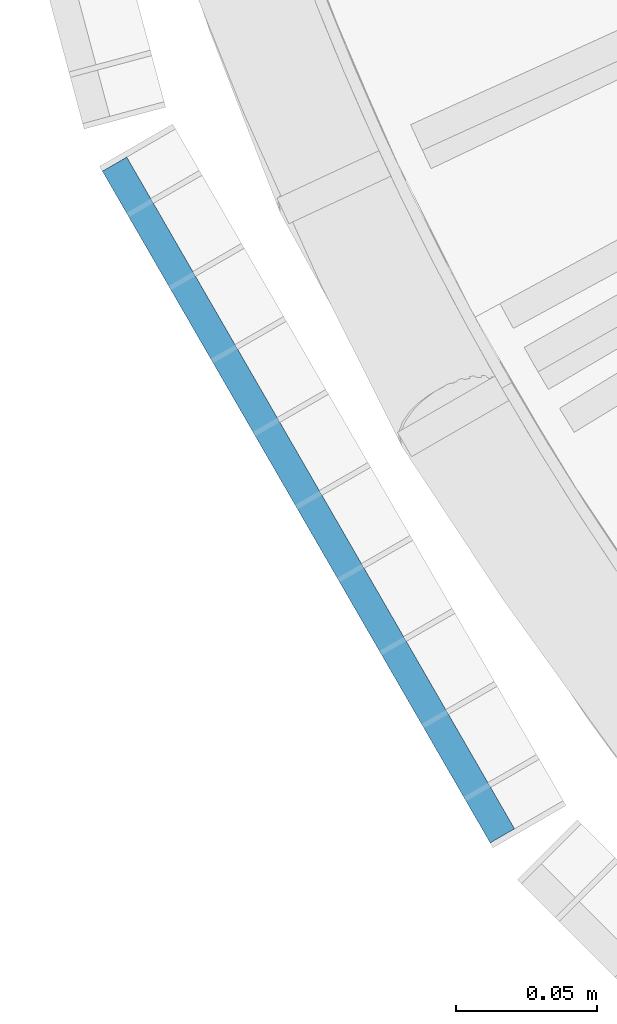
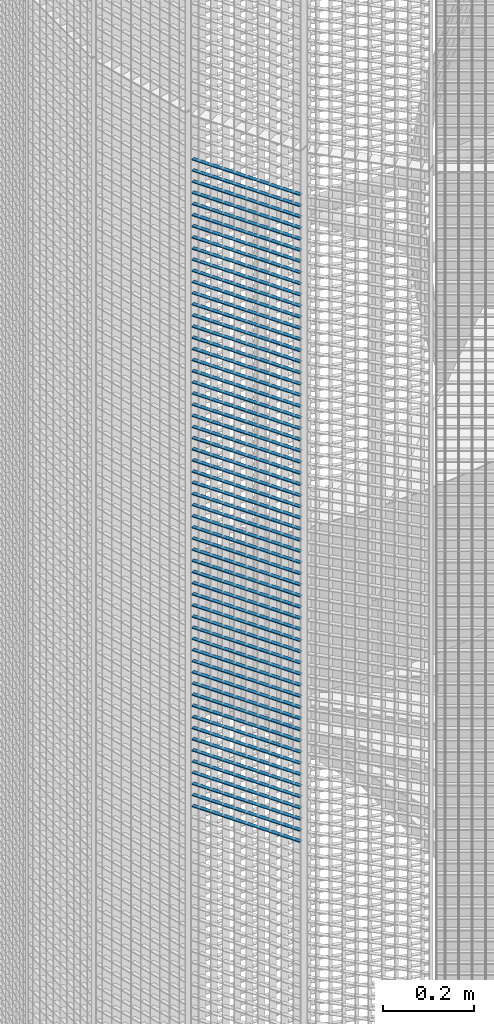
# One storey, part 126 of 1183: 59 beams, 1 element without a shape of its own.
"""IFC2X3 building model written with IfcOpenShell, lengths in millimetres."""

from ifc_helpers import new_model, si_unit, frame, origin_with_axes, origin_2d_with_axis, place, context, subcontext, project, spatial, rectangle, extrude, material, type_object, element, aggregate, save


model = new_model("IFC2X3")

# Units and contexts
model_context = context("Model", 3, precision=1e-05, world=origin_with_axes())
body_context = subcontext(model_context, "Body", "Model", "MODEL_VIEW")
ifc_project = project(units=[si_unit("LENGTHUNIT", "METRE", prefix="MILLI"), si_unit("AREAUNIT", "SQUARE_METRE"), si_unit("VOLUMEUNIT", "CUBIC_METRE"), si_unit("MASSUNIT", "GRAM", prefix="KILO"), si_unit("TIMEUNIT", "SECOND"), si_unit("PLANEANGLEUNIT", "RADIAN"), si_unit("SOLIDANGLEUNIT", "STERADIAN"), si_unit("THERMODYNAMICTEMPERATUREUNIT", "DEGREE_CELSIUS"), si_unit("LUMINOUSINTENSITYUNIT", "LUMEN")], contexts=[model_context])

# Site, building, storey
site_placement = place(None, origin_with_axes())
site = spatial("IfcSite", under=ifc_project, at=site_placement, Name="Undefined", CompositionType="ELEMENT")
building_placement = place(site_placement, origin_with_axes())
building = spatial("IfcBuilding", under=site, at=building_placement, Name="Undefined", CompositionType="ELEMENT")
storey_placement = place(building_placement, origin_with_axes())
storey = spatial("IfcBuildingStorey", under=building, at=storey_placement, Name="Undefined", CompositionType="ELEMENT", Elevation=0.0)

# Assembly, beams
assembly_placement = place(storey_placement, origin_with_axes())
assembly = element("IfcElementAssembly", 1, at=assembly_placement, inside=storey, Name="BORDURE", AssemblyPlace="NOTDEFINED", PredefinedType="NOTDEFINED")
ifc_material = material(Name="STEEL/S235JR")
beam_type = type_object("IfcBeamType", Name="PL2*10", PredefinedType="NOTDEFINED")
beam_1_placement = place(assembly_placement, frame((-1033.29996828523, -437.231955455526, 5880.0), z_axis=(-0.866025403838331, -0.499999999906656, 0.0), x_axis=(0.499999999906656, -0.866025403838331, 0.0)))
beam_1 = element("IfcBeam", 2, at=beam_1_placement, type_object=beam_type, material=ifc_material, Name="ENTRETOISE", context=body_context, shape_type="SweptSolid", body=[
    extrude(rectangle(XDim=2.0, YDim=10.0, at=origin_2d_with_axis()), frame((275.999999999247, 9.09494701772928e-13, 1.53210777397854e-14), z_axis=(-1.0, 0.0, 0.0), x_axis=(0.0, -1.0, 0.0)), (0.0, 0.0, 1.0), 276.0),
])
beam_2_placement = place(assembly_placement, frame((-1033.29996828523, -437.231955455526, 5850.0), z_axis=(-0.866025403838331, -0.499999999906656, 0.0), x_axis=(0.499999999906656, -0.866025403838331, 0.0)))
beam_2 = element("IfcBeam", 3, at=beam_2_placement, type_object=beam_type, material=ifc_material, Name="ENTRETOISE", context=body_context, shape_type="SweptSolid", body=[
    extrude(rectangle(XDim=2.0, YDim=10.0, at=origin_2d_with_axis()), frame((275.999999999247, 9.09494701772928e-13, 1.53210777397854e-14), z_axis=(-1.0, 0.0, 0.0), x_axis=(0.0, -1.0, 0.0)), (0.0, 0.0, 1.0), 276.0),
])
beam_3_placement = place(assembly_placement, frame((-1033.29996828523, -437.231955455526, 5820.0), z_axis=(-0.866025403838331, -0.499999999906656, 0.0), x_axis=(0.499999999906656, -0.866025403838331, 0.0)))
beam_3 = element("IfcBeam", 4, at=beam_3_placement, type_object=beam_type, material=ifc_material, Name="ENTRETOISE", context=body_context, shape_type="SweptSolid", body=[
    extrude(rectangle(XDim=2.0, YDim=10.0, at=origin_2d_with_axis()), frame((275.999999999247, 9.09494701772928e-13, 1.53210777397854e-14), z_axis=(-1.0, 0.0, 0.0), x_axis=(0.0, -1.0, 0.0)), (0.0, 0.0, 1.0), 276.0),
])
beam_4_placement = place(assembly_placement, frame((-1033.29996828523, -437.231955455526, 5790.0), z_axis=(-0.866025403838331, -0.499999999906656, 0.0), x_axis=(0.499999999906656, -0.866025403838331, 0.0)))
beam_4 = element("IfcBeam", 5, at=beam_4_placement, type_object=beam_type, material=ifc_material, Name="ENTRETOISE", context=body_context, shape_type="SweptSolid", body=[
    extrude(rectangle(XDim=2.0, YDim=10.0, at=origin_2d_with_axis()), frame((275.999999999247, 9.09494701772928e-13, 1.53210777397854e-14), z_axis=(-1.0, 0.0, 0.0), x_axis=(0.0, -1.0, 0.0)), (0.0, 0.0, 1.0), 276.0),
])
beam_5_placement = place(assembly_placement, frame((-1033.29996828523, -437.231955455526, 5760.0), z_axis=(-0.866025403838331, -0.499999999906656, 0.0), x_axis=(0.499999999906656, -0.866025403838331, 0.0)))
beam_5 = element("IfcBeam", 6, at=beam_5_placement, type_object=beam_type, material=ifc_material, Name="ENTRETOISE", context=body_context, shape_type="SweptSolid", body=[
    extrude(rectangle(XDim=2.0, YDim=10.0, at=origin_2d_with_axis()), frame((275.999999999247, 9.09494701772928e-13, 1.53210777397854e-14), z_axis=(-1.0, 0.0, 0.0), x_axis=(0.0, -1.0, 0.0)), (0.0, 0.0, 1.0), 276.0),
])
beam_6_placement = place(assembly_placement, frame((-1033.29996828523, -437.231955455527, 5730.0), z_axis=(-0.866025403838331, -0.499999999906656, 0.0), x_axis=(0.499999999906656, -0.866025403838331, 0.0)))
beam_6 = element("IfcBeam", 7, at=beam_6_placement, type_object=beam_type, material=ifc_material, Name="ENTRETOISE", context=body_context, shape_type="SweptSolid", body=[
    extrude(rectangle(XDim=2.0, YDim=10.0, at=origin_2d_with_axis()), frame((275.999999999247, 9.09494701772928e-13, 1.53210777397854e-14), z_axis=(-1.0, 0.0, 0.0), x_axis=(0.0, -1.0, 0.0)), (0.0, 0.0, 1.0), 276.0),
])
beam_7_placement = place(assembly_placement, frame((-1033.29996828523, -437.231955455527, 5700.0), z_axis=(-0.866025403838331, -0.499999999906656, 0.0), x_axis=(0.499999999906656, -0.866025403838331, 0.0)))
beam_7 = element("IfcBeam", 8, at=beam_7_placement, type_object=beam_type, material=ifc_material, Name="ENTRETOISE", context=body_context, shape_type="SweptSolid", body=[
    extrude(rectangle(XDim=2.0, YDim=10.0, at=origin_2d_with_axis()), frame((275.999999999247, 9.09494701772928e-13, 1.53210777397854e-14), z_axis=(-1.0, 0.0, 0.0), x_axis=(0.0, -1.0, 0.0)), (0.0, 0.0, 1.0), 276.0),
])
beam_8_placement = place(assembly_placement, frame((-1033.29996828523, -437.231955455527, 5670.0), z_axis=(-0.866025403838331, -0.499999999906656, 0.0), x_axis=(0.499999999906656, -0.866025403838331, 0.0)))
beam_8 = element("IfcBeam", 9, at=beam_8_placement, type_object=beam_type, material=ifc_material, Name="ENTRETOISE", context=body_context, shape_type="SweptSolid", body=[
    extrude(rectangle(XDim=2.0, YDim=10.0, at=origin_2d_with_axis()), frame((275.999999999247, 9.09494701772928e-13, 1.53210777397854e-14), z_axis=(-1.0, 0.0, 0.0), x_axis=(0.0, -1.0, 0.0)), (0.0, 0.0, 1.0), 276.0),
])
beam_9_placement = place(assembly_placement, frame((-1033.29996828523, -437.231955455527, 5640.0), z_axis=(-0.866025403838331, -0.499999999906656, 0.0), x_axis=(0.499999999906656, -0.866025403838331, 0.0)))
beam_9 = element("IfcBeam", 10, at=beam_9_placement, type_object=beam_type, material=ifc_material, Name="ENTRETOISE", context=body_context, shape_type="SweptSolid", body=[
    extrude(rectangle(XDim=2.0, YDim=10.0, at=origin_2d_with_axis()), frame((275.999999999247, 9.09494701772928e-13, 1.53210777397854e-14), z_axis=(-1.0, 0.0, 0.0), x_axis=(0.0, -1.0, 0.0)), (0.0, 0.0, 1.0), 276.0),
])
beam_10_placement = place(assembly_placement, frame((-1033.29996828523, -437.231955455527, 5610.0), z_axis=(-0.866025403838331, -0.499999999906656, 0.0), x_axis=(0.499999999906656, -0.866025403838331, 0.0)))
beam_10 = element("IfcBeam", 11, at=beam_10_placement, type_object=beam_type, material=ifc_material, Name="ENTRETOISE", context=body_context, shape_type="SweptSolid", body=[
    extrude(rectangle(XDim=2.0, YDim=10.0, at=origin_2d_with_axis()), frame((275.999999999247, 9.09494701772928e-13, 1.53210777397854e-14), z_axis=(-1.0, 0.0, 0.0), x_axis=(0.0, -1.0, 0.0)), (0.0, 0.0, 1.0), 276.0),
])
beam_11_placement = place(assembly_placement, frame((-1033.29996828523, -437.231955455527, 5580.0), z_axis=(-0.866025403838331, -0.499999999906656, 0.0), x_axis=(0.499999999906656, -0.866025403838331, 0.0)))
beam_11 = element("IfcBeam", 12, at=beam_11_placement, type_object=beam_type, material=ifc_material, Name="ENTRETOISE", context=body_context, shape_type="SweptSolid", body=[
    extrude(rectangle(XDim=2.0, YDim=10.0, at=origin_2d_with_axis()), frame((275.999999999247, 9.09494701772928e-13, 1.53210777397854e-14), z_axis=(-1.0, 0.0, 0.0), x_axis=(0.0, -1.0, 0.0)), (0.0, 0.0, 1.0), 276.0),
])
beam_12_placement = place(assembly_placement, frame((-1033.29996828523, -437.231955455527, 5550.0), z_axis=(-0.866025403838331, -0.499999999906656, 0.0), x_axis=(0.499999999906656, -0.866025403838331, 0.0)))
beam_12 = element("IfcBeam", 13, at=beam_12_placement, type_object=beam_type, material=ifc_material, Name="ENTRETOISE", context=body_context, shape_type="SweptSolid", body=[
    extrude(rectangle(XDim=2.0, YDim=10.0, at=origin_2d_with_axis()), frame((275.999999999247, 9.09494701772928e-13, 1.53210777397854e-14), z_axis=(-1.0, 0.0, 0.0), x_axis=(0.0, -1.0, 0.0)), (0.0, 0.0, 1.0), 276.0),
])
beam_13_placement = place(assembly_placement, frame((-1033.29996828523, -437.231955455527, 5520.0), z_axis=(-0.866025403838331, -0.499999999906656, 0.0), x_axis=(0.499999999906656, -0.866025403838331, 0.0)))
beam_13 = element("IfcBeam", 14, at=beam_13_placement, type_object=beam_type, material=ifc_material, Name="ENTRETOISE", context=body_context, shape_type="SweptSolid", body=[
    extrude(rectangle(XDim=2.0, YDim=10.0, at=origin_2d_with_axis()), frame((275.999999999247, 9.09494701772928e-13, 1.53210777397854e-14), z_axis=(-1.0, 0.0, 0.0), x_axis=(0.0, -1.0, 0.0)), (0.0, 0.0, 1.0), 276.0),
])
beam_14_placement = place(assembly_placement, frame((-1033.29996828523, -437.231955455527, 5490.0), z_axis=(-0.866025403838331, -0.499999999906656, 0.0), x_axis=(0.499999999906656, -0.866025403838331, 0.0)))
beam_14 = element("IfcBeam", 15, at=beam_14_placement, type_object=beam_type, material=ifc_material, Name="ENTRETOISE", context=body_context, shape_type="SweptSolid", body=[
    extrude(rectangle(XDim=2.0, YDim=10.0, at=origin_2d_with_axis()), frame((275.999999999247, 9.09494701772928e-13, 1.53210777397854e-14), z_axis=(-1.0, 0.0, 0.0), x_axis=(0.0, -1.0, 0.0)), (0.0, 0.0, 1.0), 276.0),
])
beam_15_placement = place(assembly_placement, frame((-1033.29996828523, -437.231955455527, 5460.0), z_axis=(-0.866025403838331, -0.499999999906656, 0.0), x_axis=(0.499999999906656, -0.866025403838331, 0.0)))
beam_15 = element("IfcBeam", 16, at=beam_15_placement, type_object=beam_type, material=ifc_material, Name="ENTRETOISE", context=body_context, shape_type="SweptSolid", body=[
    extrude(rectangle(XDim=2.0, YDim=10.0, at=origin_2d_with_axis()), frame((275.999999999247, 9.09494701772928e-13, 1.53210777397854e-14), z_axis=(-1.0, 0.0, 0.0), x_axis=(0.0, -1.0, 0.0)), (0.0, 0.0, 1.0), 276.0),
])
beam_16_placement = place(assembly_placement, frame((-1033.29996828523, -437.231955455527, 5430.0), z_axis=(-0.866025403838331, -0.499999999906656, 0.0), x_axis=(0.499999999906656, -0.866025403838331, 0.0)))
beam_16 = element("IfcBeam", 17, at=beam_16_placement, type_object=beam_type, material=ifc_material, Name="ENTRETOISE", context=body_context, shape_type="SweptSolid", body=[
    extrude(rectangle(XDim=2.0, YDim=10.0, at=origin_2d_with_axis()), frame((275.999999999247, 9.09494701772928e-13, 1.53210777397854e-14), z_axis=(-1.0, 0.0, 0.0), x_axis=(0.0, -1.0, 0.0)), (0.0, 0.0, 1.0), 276.0),
])
beam_17_placement = place(assembly_placement, frame((-1033.29996828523, -437.231955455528, 5400.0), z_axis=(-0.866025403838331, -0.499999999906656, 0.0), x_axis=(0.499999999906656, -0.866025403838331, 0.0)))
beam_17 = element("IfcBeam", 18, at=beam_17_placement, type_object=beam_type, material=ifc_material, Name="ENTRETOISE", context=body_context, shape_type="SweptSolid", body=[
    extrude(rectangle(XDim=2.0, YDim=10.0, at=origin_2d_with_axis()), frame((275.999999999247, 9.09494701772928e-13, 1.53210777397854e-14), z_axis=(-1.0, 0.0, 0.0), x_axis=(0.0, -1.0, 0.0)), (0.0, 0.0, 1.0), 276.0),
])
beam_18_placement = place(assembly_placement, frame((-1033.29996828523, -437.231955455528, 5370.0), z_axis=(-0.866025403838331, -0.499999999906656, 0.0), x_axis=(0.499999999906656, -0.866025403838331, 0.0)))
beam_18 = element("IfcBeam", 19, at=beam_18_placement, type_object=beam_type, material=ifc_material, Name="ENTRETOISE", context=body_context, shape_type="SweptSolid", body=[
    extrude(rectangle(XDim=2.0, YDim=10.0, at=origin_2d_with_axis()), frame((275.999999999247, 9.09494701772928e-13, 1.53210777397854e-14), z_axis=(-1.0, 0.0, 0.0), x_axis=(0.0, -1.0, 0.0)), (0.0, 0.0, 1.0), 276.0),
])
beam_19_placement = place(assembly_placement, frame((-1033.29996828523, -437.231955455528, 5340.0), z_axis=(-0.866025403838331, -0.499999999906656, 0.0), x_axis=(0.499999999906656, -0.866025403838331, 0.0)))
beam_19 = element("IfcBeam", 20, at=beam_19_placement, type_object=beam_type, material=ifc_material, Name="ENTRETOISE", context=body_context, shape_type="SweptSolid", body=[
    extrude(rectangle(XDim=2.0, YDim=10.0, at=origin_2d_with_axis()), frame((275.999999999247, 9.09494701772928e-13, 1.53210777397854e-14), z_axis=(-1.0, 0.0, 0.0), x_axis=(0.0, -1.0, 0.0)), (0.0, 0.0, 1.0), 276.0),
])
beam_20_placement = place(assembly_placement, frame((-1033.29996828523, -437.231955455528, 5310.0), z_axis=(-0.866025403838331, -0.499999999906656, 0.0), x_axis=(0.499999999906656, -0.866025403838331, 0.0)))
beam_20 = element("IfcBeam", 21, at=beam_20_placement, type_object=beam_type, material=ifc_material, Name="ENTRETOISE", context=body_context, shape_type="SweptSolid", body=[
    extrude(rectangle(XDim=2.0, YDim=10.0, at=origin_2d_with_axis()), frame((275.999999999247, 9.09494701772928e-13, 1.53210777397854e-14), z_axis=(-1.0, 0.0, 0.0), x_axis=(0.0, -1.0, 0.0)), (0.0, 0.0, 1.0), 276.0),
])
beam_21_placement = place(assembly_placement, frame((-1033.29996828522, -437.231955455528, 5280.0), z_axis=(-0.866025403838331, -0.499999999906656, 0.0), x_axis=(0.499999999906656, -0.866025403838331, 0.0)))
beam_21 = element("IfcBeam", 22, at=beam_21_placement, type_object=beam_type, material=ifc_material, Name="ENTRETOISE", context=body_context, shape_type="SweptSolid", body=[
    extrude(rectangle(XDim=2.0, YDim=10.0, at=origin_2d_with_axis()), frame((275.999999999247, 9.09494701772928e-13, 1.53210777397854e-14), z_axis=(-1.0, 0.0, 0.0), x_axis=(0.0, -1.0, 0.0)), (0.0, 0.0, 1.0), 276.0),
])
beam_22_placement = place(assembly_placement, frame((-1033.29996828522, -437.231955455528, 5250.0), z_axis=(-0.866025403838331, -0.499999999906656, 0.0), x_axis=(0.499999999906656, -0.866025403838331, 0.0)))
beam_22 = element("IfcBeam", 23, at=beam_22_placement, type_object=beam_type, material=ifc_material, Name="ENTRETOISE", context=body_context, shape_type="SweptSolid", body=[
    extrude(rectangle(XDim=2.0, YDim=10.0, at=origin_2d_with_axis()), frame((275.999999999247, 9.09494701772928e-13, 1.53210777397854e-14), z_axis=(-1.0, 0.0, 0.0), x_axis=(0.0, -1.0, 0.0)), (0.0, 0.0, 1.0), 276.0),
])
beam_23_placement = place(assembly_placement, frame((-1033.29996828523, -437.231955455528, 5220.0), z_axis=(-0.866025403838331, -0.499999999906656, 0.0), x_axis=(0.499999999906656, -0.866025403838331, 0.0)))
beam_23 = element("IfcBeam", 24, at=beam_23_placement, type_object=beam_type, material=ifc_material, Name="ENTRETOISE", context=body_context, shape_type="SweptSolid", body=[
    extrude(rectangle(XDim=2.0, YDim=10.0, at=origin_2d_with_axis()), frame((275.999999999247, 9.09494701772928e-13, 1.53210777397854e-14), z_axis=(-1.0, 0.0, 0.0), x_axis=(0.0, -1.0, 0.0)), (0.0, 0.0, 1.0), 276.0),
])
beam_24_placement = place(assembly_placement, frame((-1033.29996828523, -437.231955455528, 5190.0), z_axis=(-0.866025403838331, -0.499999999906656, 0.0), x_axis=(0.499999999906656, -0.866025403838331, 0.0)))
beam_24 = element("IfcBeam", 25, at=beam_24_placement, type_object=beam_type, material=ifc_material, Name="ENTRETOISE", context=body_context, shape_type="SweptSolid", body=[
    extrude(rectangle(XDim=2.0, YDim=10.0, at=origin_2d_with_axis()), frame((275.999999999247, 9.09494701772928e-13, 1.53210777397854e-14), z_axis=(-1.0, 0.0, 0.0), x_axis=(0.0, -1.0, 0.0)), (0.0, 0.0, 1.0), 276.0),
])
beam_25_placement = place(assembly_placement, frame((-1033.29996828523, -437.231955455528, 5160.0), z_axis=(-0.866025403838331, -0.499999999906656, 0.0), x_axis=(0.499999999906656, -0.866025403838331, 0.0)))
beam_25 = element("IfcBeam", 26, at=beam_25_placement, type_object=beam_type, material=ifc_material, Name="ENTRETOISE", context=body_context, shape_type="SweptSolid", body=[
    extrude(rectangle(XDim=2.0, YDim=10.0, at=origin_2d_with_axis()), frame((275.999999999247, 9.09494701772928e-13, 1.53210777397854e-14), z_axis=(-1.0, 0.0, 0.0), x_axis=(0.0, -1.0, 0.0)), (0.0, 0.0, 1.0), 276.0),
])
beam_26_placement = place(assembly_placement, frame((-1033.29996828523, -437.231955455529, 5130.0), z_axis=(-0.866025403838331, -0.499999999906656, 0.0), x_axis=(0.499999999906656, -0.866025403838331, 0.0)))
beam_26 = element("IfcBeam", 27, at=beam_26_placement, type_object=beam_type, material=ifc_material, Name="ENTRETOISE", context=body_context, shape_type="SweptSolid", body=[
    extrude(rectangle(XDim=2.0, YDim=10.0, at=origin_2d_with_axis()), frame((275.999999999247, 9.09494701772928e-13, 1.53210777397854e-14), z_axis=(-1.0, 0.0, 0.0), x_axis=(0.0, -1.0, 0.0)), (0.0, 0.0, 1.0), 276.0),
])
beam_27_placement = place(assembly_placement, frame((-1033.29996828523, -437.231955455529, 5100.0), z_axis=(-0.866025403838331, -0.499999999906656, 0.0), x_axis=(0.499999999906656, -0.866025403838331, 0.0)))
beam_27 = element("IfcBeam", 28, at=beam_27_placement, type_object=beam_type, material=ifc_material, Name="ENTRETOISE", context=body_context, shape_type="SweptSolid", body=[
    extrude(rectangle(XDim=2.0, YDim=10.0, at=origin_2d_with_axis()), frame((275.999999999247, 9.09494701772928e-13, 1.53210777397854e-14), z_axis=(-1.0, 0.0, 0.0), x_axis=(0.0, -1.0, 0.0)), (0.0, 0.0, 1.0), 276.0),
])
beam_28_placement = place(assembly_placement, frame((-1033.29996828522, -437.231955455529, 5070.0), z_axis=(-0.866025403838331, -0.499999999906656, 0.0), x_axis=(0.499999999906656, -0.866025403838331, 0.0)))
beam_28 = element("IfcBeam", 29, at=beam_28_placement, type_object=beam_type, material=ifc_material, Name="ENTRETOISE", context=body_context, shape_type="SweptSolid", body=[
    extrude(rectangle(XDim=2.0, YDim=10.0, at=origin_2d_with_axis()), frame((275.999999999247, 9.09494701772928e-13, 1.53210777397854e-14), z_axis=(-1.0, 0.0, 0.0), x_axis=(0.0, -1.0, 0.0)), (0.0, 0.0, 1.0), 276.0),
])
beam_29_placement = place(assembly_placement, frame((-1033.29996828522, -437.231955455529, 5040.0), z_axis=(-0.866025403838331, -0.499999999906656, 0.0), x_axis=(0.499999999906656, -0.866025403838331, 0.0)))
beam_29 = element("IfcBeam", 30, at=beam_29_placement, type_object=beam_type, material=ifc_material, Name="ENTRETOISE", context=body_context, shape_type="SweptSolid", body=[
    extrude(rectangle(XDim=2.0, YDim=10.0, at=origin_2d_with_axis()), frame((275.999999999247, 9.09494701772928e-13, 1.53210777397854e-14), z_axis=(-1.0, 0.0, 0.0), x_axis=(0.0, -1.0, 0.0)), (0.0, 0.0, 1.0), 276.0),
])
beam_30_placement = place(assembly_placement, frame((-1033.29996828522, -437.231955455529, 5010.0), z_axis=(-0.866025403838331, -0.499999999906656, 0.0), x_axis=(0.499999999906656, -0.866025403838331, 0.0)))
beam_30 = element("IfcBeam", 31, at=beam_30_placement, type_object=beam_type, material=ifc_material, Name="ENTRETOISE", context=body_context, shape_type="SweptSolid", body=[
    extrude(rectangle(XDim=2.0, YDim=10.0, at=origin_2d_with_axis()), frame((275.999999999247, 9.09494701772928e-13, 1.53210777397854e-14), z_axis=(-1.0, 0.0, 0.0), x_axis=(0.0, -1.0, 0.0)), (0.0, 0.0, 1.0), 276.0),
])
beam_31_placement = place(assembly_placement, frame((-1033.29996828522, -437.231955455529, 4980.0), z_axis=(-0.866025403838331, -0.499999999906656, 0.0), x_axis=(0.499999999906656, -0.866025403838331, 0.0)))
beam_31 = element("IfcBeam", 32, at=beam_31_placement, type_object=beam_type, material=ifc_material, Name="ENTRETOISE", context=body_context, shape_type="SweptSolid", body=[
    extrude(rectangle(XDim=2.0, YDim=10.0, at=origin_2d_with_axis()), frame((275.999999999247, 9.09494701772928e-13, 1.53210777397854e-14), z_axis=(-1.0, 0.0, 0.0), x_axis=(0.0, -1.0, 0.0)), (0.0, 0.0, 1.0), 276.0),
])
beam_32_placement = place(assembly_placement, frame((-1033.29996828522, -437.231955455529, 4950.0), z_axis=(-0.866025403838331, -0.499999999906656, 0.0), x_axis=(0.499999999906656, -0.866025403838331, 0.0)))
beam_32 = element("IfcBeam", 33, at=beam_32_placement, type_object=beam_type, material=ifc_material, Name="ENTRETOISE", context=body_context, shape_type="SweptSolid", body=[
    extrude(rectangle(XDim=2.0, YDim=10.0, at=origin_2d_with_axis()), frame((275.999999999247, 9.09494701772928e-13, 1.53210777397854e-14), z_axis=(-1.0, 0.0, 0.0), x_axis=(0.0, -1.0, 0.0)), (0.0, 0.0, 1.0), 276.0),
])
beam_33_placement = place(assembly_placement, frame((-1033.29996828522, -437.231955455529, 4920.0), z_axis=(-0.866025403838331, -0.499999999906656, 0.0), x_axis=(0.499999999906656, -0.866025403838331, 0.0)))
beam_33 = element("IfcBeam", 34, at=beam_33_placement, type_object=beam_type, material=ifc_material, Name="ENTRETOISE", context=body_context, shape_type="SweptSolid", body=[
    extrude(rectangle(XDim=2.0, YDim=10.0, at=origin_2d_with_axis()), frame((275.999999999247, 9.09494701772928e-13, 1.53210777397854e-14), z_axis=(-1.0, 0.0, 0.0), x_axis=(0.0, -1.0, 0.0)), (0.0, 0.0, 1.0), 276.0),
])
beam_34_placement = place(assembly_placement, frame((-1033.29996828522, -437.231955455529, 4890.0), z_axis=(-0.866025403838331, -0.499999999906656, 0.0), x_axis=(0.499999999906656, -0.866025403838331, 0.0)))
beam_34 = element("IfcBeam", 35, at=beam_34_placement, type_object=beam_type, material=ifc_material, Name="ENTRETOISE", context=body_context, shape_type="SweptSolid", body=[
    extrude(rectangle(XDim=2.0, YDim=10.0, at=origin_2d_with_axis()), frame((275.999999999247, 9.09494701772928e-13, 1.53210777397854e-14), z_axis=(-1.0, 0.0, 0.0), x_axis=(0.0, -1.0, 0.0)), (0.0, 0.0, 1.0), 276.0),
])
beam_35_placement = place(assembly_placement, frame((-1033.29996828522, -437.23195545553, 4860.0), z_axis=(-0.866025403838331, -0.499999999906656, 0.0), x_axis=(0.499999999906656, -0.866025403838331, 0.0)))
beam_35 = element("IfcBeam", 36, at=beam_35_placement, type_object=beam_type, material=ifc_material, Name="ENTRETOISE", context=body_context, shape_type="SweptSolid", body=[
    extrude(rectangle(XDim=2.0, YDim=10.0, at=origin_2d_with_axis()), frame((275.999999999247, 9.09494701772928e-13, 1.53210777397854e-14), z_axis=(-1.0, 0.0, 0.0), x_axis=(0.0, -1.0, 0.0)), (0.0, 0.0, 1.0), 276.0),
])
beam_36_placement = place(assembly_placement, frame((-1033.29996828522, -437.23195545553, 4830.0), z_axis=(-0.866025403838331, -0.499999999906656, 0.0), x_axis=(0.499999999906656, -0.866025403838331, 0.0)))
beam_36 = element("IfcBeam", 37, at=beam_36_placement, type_object=beam_type, material=ifc_material, Name="ENTRETOISE", context=body_context, shape_type="SweptSolid", body=[
    extrude(rectangle(XDim=2.0, YDim=10.0, at=origin_2d_with_axis()), frame((275.999999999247, 9.09494701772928e-13, 1.53210777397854e-14), z_axis=(-1.0, 0.0, 0.0), x_axis=(0.0, -1.0, 0.0)), (0.0, 0.0, 1.0), 276.0),
])
beam_37_placement = place(assembly_placement, frame((-1033.29996828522, -437.23195545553, 4800.0), z_axis=(-0.866025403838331, -0.499999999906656, 0.0), x_axis=(0.499999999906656, -0.866025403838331, 0.0)))
beam_37 = element("IfcBeam", 38, at=beam_37_placement, type_object=beam_type, material=ifc_material, Name="ENTRETOISE", context=body_context, shape_type="SweptSolid", body=[
    extrude(rectangle(XDim=2.0, YDim=10.0, at=origin_2d_with_axis()), frame((275.999999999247, 9.09494701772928e-13, 1.53210777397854e-14), z_axis=(-1.0, 0.0, 0.0), x_axis=(0.0, -1.0, 0.0)), (0.0, 0.0, 1.0), 276.0),
])
beam_38_placement = place(assembly_placement, frame((-1033.29996828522, -437.23195545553, 4770.0), z_axis=(-0.866025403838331, -0.499999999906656, 0.0), x_axis=(0.499999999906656, -0.866025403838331, 0.0)))
beam_38 = element("IfcBeam", 39, at=beam_38_placement, type_object=beam_type, material=ifc_material, Name="ENTRETOISE", context=body_context, shape_type="SweptSolid", body=[
    extrude(rectangle(XDim=2.0, YDim=10.0, at=origin_2d_with_axis()), frame((275.999999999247, 9.09494701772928e-13, 1.53210777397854e-14), z_axis=(-1.0, 0.0, 0.0), x_axis=(0.0, -1.0, 0.0)), (0.0, 0.0, 1.0), 276.0),
])
beam_39_placement = place(assembly_placement, frame((-1033.29996828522, -437.23195545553, 4740.0), z_axis=(-0.866025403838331, -0.499999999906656, 0.0), x_axis=(0.499999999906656, -0.866025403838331, 0.0)))
beam_39 = element("IfcBeam", 40, at=beam_39_placement, type_object=beam_type, material=ifc_material, Name="ENTRETOISE", context=body_context, shape_type="SweptSolid", body=[
    extrude(rectangle(XDim=2.0, YDim=10.0, at=origin_2d_with_axis()), frame((275.999999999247, 9.09494701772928e-13, 1.53210777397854e-14), z_axis=(-1.0, 0.0, 0.0), x_axis=(0.0, -1.0, 0.0)), (0.0, 0.0, 1.0), 276.0),
])
beam_40_placement = place(assembly_placement, frame((-1033.29996828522, -437.23195545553, 4710.0), z_axis=(-0.866025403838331, -0.499999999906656, 0.0), x_axis=(0.499999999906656, -0.866025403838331, 0.0)))
beam_40 = element("IfcBeam", 41, at=beam_40_placement, type_object=beam_type, material=ifc_material, Name="ENTRETOISE", context=body_context, shape_type="SweptSolid", body=[
    extrude(rectangle(XDim=2.0, YDim=10.0, at=origin_2d_with_axis()), frame((275.999999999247, 9.09494701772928e-13, 1.53210777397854e-14), z_axis=(-1.0, 0.0, 0.0), x_axis=(0.0, -1.0, 0.0)), (0.0, 0.0, 1.0), 276.0),
])
beam_41_placement = place(assembly_placement, frame((-1033.29996828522, -437.23195545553, 4680.0), z_axis=(-0.866025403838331, -0.499999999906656, 0.0), x_axis=(0.499999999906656, -0.866025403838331, 0.0)))
beam_41 = element("IfcBeam", 42, at=beam_41_placement, type_object=beam_type, material=ifc_material, Name="ENTRETOISE", context=body_context, shape_type="SweptSolid", body=[
    extrude(rectangle(XDim=2.0, YDim=10.0, at=origin_2d_with_axis()), frame((275.999999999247, 9.09494701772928e-13, 1.53210777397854e-14), z_axis=(-1.0, 0.0, 0.0), x_axis=(0.0, -1.0, 0.0)), (0.0, 0.0, 1.0), 276.0),
])
beam_42_placement = place(assembly_placement, frame((-1033.29996828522, -437.23195545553, 4650.0), z_axis=(-0.866025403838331, -0.499999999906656, 0.0), x_axis=(0.499999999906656, -0.866025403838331, 0.0)))
beam_42 = element("IfcBeam", 43, at=beam_42_placement, type_object=beam_type, material=ifc_material, Name="ENTRETOISE", context=body_context, shape_type="SweptSolid", body=[
    extrude(rectangle(XDim=2.0, YDim=10.0, at=origin_2d_with_axis()), frame((275.999999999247, 9.09494701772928e-13, 1.53210777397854e-14), z_axis=(-1.0, 0.0, 0.0), x_axis=(0.0, -1.0, 0.0)), (0.0, 0.0, 1.0), 276.0),
])
beam_43_placement = place(assembly_placement, frame((-1033.29996828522, -437.23195545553, 4620.0), z_axis=(-0.866025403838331, -0.499999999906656, 0.0), x_axis=(0.499999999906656, -0.866025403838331, 0.0)))
beam_43 = element("IfcBeam", 44, at=beam_43_placement, type_object=beam_type, material=ifc_material, Name="ENTRETOISE", context=body_context, shape_type="SweptSolid", body=[
    extrude(rectangle(XDim=2.0, YDim=10.0, at=origin_2d_with_axis()), frame((275.999999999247, 9.09494701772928e-13, 1.53210777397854e-14), z_axis=(-1.0, 0.0, 0.0), x_axis=(0.0, -1.0, 0.0)), (0.0, 0.0, 1.0), 276.0),
])
beam_44_placement = place(assembly_placement, frame((-1033.29996828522, -437.23195545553, 4590.0), z_axis=(-0.866025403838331, -0.499999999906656, 0.0), x_axis=(0.499999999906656, -0.866025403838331, 0.0)))
beam_44 = element("IfcBeam", 45, at=beam_44_placement, type_object=beam_type, material=ifc_material, Name="ENTRETOISE", context=body_context, shape_type="SweptSolid", body=[
    extrude(rectangle(XDim=2.0, YDim=10.0, at=origin_2d_with_axis()), frame((275.999999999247, 9.09494701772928e-13, 1.53210777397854e-14), z_axis=(-1.0, 0.0, 0.0), x_axis=(0.0, -1.0, 0.0)), (0.0, 0.0, 1.0), 276.0),
])
beam_45_placement = place(assembly_placement, frame((-1033.29996828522, -437.23195545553, 4560.0), z_axis=(-0.866025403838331, -0.499999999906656, 0.0), x_axis=(0.499999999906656, -0.866025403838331, 0.0)))
beam_45 = element("IfcBeam", 46, at=beam_45_placement, type_object=beam_type, material=ifc_material, Name="ENTRETOISE", context=body_context, shape_type="SweptSolid", body=[
    extrude(rectangle(XDim=2.0, YDim=10.0, at=origin_2d_with_axis()), frame((275.999999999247, 9.09494701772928e-13, 1.53210777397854e-14), z_axis=(-1.0, 0.0, 0.0), x_axis=(0.0, -1.0, 0.0)), (0.0, 0.0, 1.0), 276.0),
])
beam_46_placement = place(assembly_placement, frame((-1033.29996828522, -437.23195545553, 4530.0), z_axis=(-0.866025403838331, -0.499999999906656, 0.0), x_axis=(0.499999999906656, -0.866025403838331, 0.0)))
beam_46 = element("IfcBeam", 47, at=beam_46_placement, type_object=beam_type, material=ifc_material, Name="ENTRETOISE", context=body_context, shape_type="SweptSolid", body=[
    extrude(rectangle(XDim=2.0, YDim=10.0, at=origin_2d_with_axis()), frame((275.999999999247, 9.09494701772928e-13, 1.53210777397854e-14), z_axis=(-1.0, 0.0, 0.0), x_axis=(0.0, -1.0, 0.0)), (0.0, 0.0, 1.0), 276.0),
])
beam_47_placement = place(assembly_placement, frame((-1033.29996828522, -437.231955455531, 4500.0), z_axis=(-0.866025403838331, -0.499999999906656, 0.0), x_axis=(0.499999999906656, -0.866025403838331, 0.0)))
beam_47 = element("IfcBeam", 48, at=beam_47_placement, type_object=beam_type, material=ifc_material, Name="ENTRETOISE", context=body_context, shape_type="SweptSolid", body=[
    extrude(rectangle(XDim=2.0, YDim=10.0, at=origin_2d_with_axis()), frame((275.999999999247, 9.09494701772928e-13, 1.53210777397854e-14), z_axis=(-1.0, 0.0, 0.0), x_axis=(0.0, -1.0, 0.0)), (0.0, 0.0, 1.0), 276.0),
])
beam_48_placement = place(assembly_placement, frame((-1033.29996828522, -437.231955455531, 4470.0), z_axis=(-0.866025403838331, -0.499999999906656, 0.0), x_axis=(0.499999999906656, -0.866025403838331, 0.0)))
beam_48 = element("IfcBeam", 49, at=beam_48_placement, type_object=beam_type, material=ifc_material, Name="ENTRETOISE", context=body_context, shape_type="SweptSolid", body=[
    extrude(rectangle(XDim=2.0, YDim=10.0, at=origin_2d_with_axis()), frame((275.999999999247, 9.09494701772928e-13, 1.53210777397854e-14), z_axis=(-1.0, 0.0, 0.0), x_axis=(0.0, -1.0, 0.0)), (0.0, 0.0, 1.0), 276.0),
])
beam_49_placement = place(assembly_placement, frame((-1033.29996828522, -437.231955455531, 4440.0), z_axis=(-0.866025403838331, -0.499999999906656, 0.0), x_axis=(0.499999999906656, -0.866025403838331, 0.0)))
beam_49 = element("IfcBeam", 50, at=beam_49_placement, type_object=beam_type, material=ifc_material, Name="ENTRETOISE", context=body_context, shape_type="SweptSolid", body=[
    extrude(rectangle(XDim=2.0, YDim=10.0, at=origin_2d_with_axis()), frame((275.999999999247, 9.09494701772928e-13, 1.53210777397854e-14), z_axis=(-1.0, 0.0, 0.0), x_axis=(0.0, -1.0, 0.0)), (0.0, 0.0, 1.0), 276.0),
])
beam_50_placement = place(assembly_placement, frame((-1033.29996828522, -437.231955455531, 4410.0), z_axis=(-0.866025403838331, -0.499999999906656, 0.0), x_axis=(0.499999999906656, -0.866025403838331, 0.0)))
beam_50 = element("IfcBeam", 51, at=beam_50_placement, type_object=beam_type, material=ifc_material, Name="ENTRETOISE", context=body_context, shape_type="SweptSolid", body=[
    extrude(rectangle(XDim=2.0, YDim=10.0, at=origin_2d_with_axis()), frame((275.999999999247, 9.09494701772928e-13, 1.53210777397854e-14), z_axis=(-1.0, 0.0, 0.0), x_axis=(0.0, -1.0, 0.0)), (0.0, 0.0, 1.0), 276.0),
])
beam_51_placement = place(assembly_placement, frame((-1033.29996828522, -437.231955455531, 4380.0), z_axis=(-0.866025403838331, -0.499999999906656, 0.0), x_axis=(0.499999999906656, -0.866025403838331, 0.0)))
beam_51 = element("IfcBeam", 52, at=beam_51_placement, type_object=beam_type, material=ifc_material, Name="ENTRETOISE", context=body_context, shape_type="SweptSolid", body=[
    extrude(rectangle(XDim=2.0, YDim=10.0, at=origin_2d_with_axis()), frame((275.999999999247, 9.09494701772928e-13, 1.53210777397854e-14), z_axis=(-1.0, 0.0, 0.0), x_axis=(0.0, -1.0, 0.0)), (0.0, 0.0, 1.0), 276.0),
])
beam_52_placement = place(assembly_placement, frame((-1033.29996828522, -437.231955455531, 4350.0), z_axis=(-0.866025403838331, -0.499999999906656, 0.0), x_axis=(0.499999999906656, -0.866025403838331, 0.0)))
beam_52 = element("IfcBeam", 53, at=beam_52_placement, type_object=beam_type, material=ifc_material, Name="ENTRETOISE", context=body_context, shape_type="SweptSolid", body=[
    extrude(rectangle(XDim=2.0, YDim=10.0, at=origin_2d_with_axis()), frame((275.999999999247, 9.09494701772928e-13, 1.53210777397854e-14), z_axis=(-1.0, 0.0, 0.0), x_axis=(0.0, -1.0, 0.0)), (0.0, 0.0, 1.0), 276.0),
])
beam_53_placement = place(assembly_placement, frame((-1033.29996828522, -437.231955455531, 4320.0), z_axis=(-0.866025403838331, -0.499999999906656, 0.0), x_axis=(0.499999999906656, -0.866025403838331, 0.0)))
beam_53 = element("IfcBeam", 54, at=beam_53_placement, type_object=beam_type, material=ifc_material, Name="ENTRETOISE", context=body_context, shape_type="SweptSolid", body=[
    extrude(rectangle(XDim=2.0, YDim=10.0, at=origin_2d_with_axis()), frame((275.999999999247, 9.09494701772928e-13, 1.53210777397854e-14), z_axis=(-1.0, 0.0, 0.0), x_axis=(0.0, -1.0, 0.0)), (0.0, 0.0, 1.0), 276.0),
])
beam_54_placement = place(assembly_placement, frame((-1033.29996828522, -437.231955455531, 4290.0), z_axis=(-0.866025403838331, -0.499999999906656, 0.0), x_axis=(0.499999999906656, -0.866025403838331, 0.0)))
beam_54 = element("IfcBeam", 55, at=beam_54_placement, type_object=beam_type, material=ifc_material, Name="ENTRETOISE", context=body_context, shape_type="SweptSolid", body=[
    extrude(rectangle(XDim=2.0, YDim=10.0, at=origin_2d_with_axis()), frame((275.999999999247, 9.09494701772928e-13, 1.53210777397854e-14), z_axis=(-1.0, 0.0, 0.0), x_axis=(0.0, -1.0, 0.0)), (0.0, 0.0, 1.0), 276.0),
])
beam_55_placement = place(assembly_placement, frame((-1033.29996828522, -437.231955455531, 4260.0), z_axis=(-0.866025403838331, -0.499999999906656, 0.0), x_axis=(0.499999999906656, -0.866025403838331, 0.0)))
beam_55 = element("IfcBeam", 56, at=beam_55_placement, type_object=beam_type, material=ifc_material, Name="ENTRETOISE", context=body_context, shape_type="SweptSolid", body=[
    extrude(rectangle(XDim=2.0, YDim=10.0, at=origin_2d_with_axis()), frame((275.999999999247, 9.09494701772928e-13, 1.53210777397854e-14), z_axis=(-1.0, 0.0, 0.0), x_axis=(0.0, -1.0, 0.0)), (0.0, 0.0, 1.0), 276.0),
])
beam_56_placement = place(assembly_placement, frame((-1033.29996828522, -437.231955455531, 4230.0), z_axis=(-0.866025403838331, -0.499999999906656, 0.0), x_axis=(0.499999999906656, -0.866025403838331, 0.0)))
beam_56 = element("IfcBeam", 57, at=beam_56_placement, type_object=beam_type, material=ifc_material, Name="ENTRETOISE", context=body_context, shape_type="SweptSolid", body=[
    extrude(rectangle(XDim=2.0, YDim=10.0, at=origin_2d_with_axis()), frame((275.999999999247, 9.09494701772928e-13, 1.53210777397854e-14), z_axis=(-1.0, 0.0, 0.0), x_axis=(0.0, -1.0, 0.0)), (0.0, 0.0, 1.0), 276.0),
])
beam_57_placement = place(assembly_placement, frame((-1033.29996828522, -437.231955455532, 4200.0), z_axis=(-0.866025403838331, -0.499999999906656, 0.0), x_axis=(0.499999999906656, -0.866025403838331, 0.0)))
beam_57 = element("IfcBeam", 58, at=beam_57_placement, type_object=beam_type, material=ifc_material, Name="ENTRETOISE", context=body_context, shape_type="SweptSolid", body=[
    extrude(rectangle(XDim=2.0, YDim=10.0, at=origin_2d_with_axis()), frame((275.999999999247, 9.09494701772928e-13, 1.53210777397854e-14), z_axis=(-1.0, 0.0, 0.0), x_axis=(0.0, -1.0, 0.0)), (0.0, 0.0, 1.0), 276.0),
])
beam_58_placement = place(assembly_placement, frame((-1033.29996828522, -437.231955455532, 4170.0), z_axis=(-0.866025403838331, -0.499999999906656, 0.0), x_axis=(0.499999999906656, -0.866025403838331, 0.0)))
beam_58 = element("IfcBeam", 59, at=beam_58_placement, type_object=beam_type, material=ifc_material, Name="ENTRETOISE", context=body_context, shape_type="SweptSolid", body=[
    extrude(rectangle(XDim=2.0, YDim=10.0, at=origin_2d_with_axis()), frame((275.999999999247, 9.09494701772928e-13, 1.53210777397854e-14), z_axis=(-1.0, 0.0, 0.0), x_axis=(0.0, -1.0, 0.0)), (0.0, 0.0, 1.0), 276.0),
])
beam_59_placement = place(assembly_placement, frame((-1033.29996828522, -437.231955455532, 4140.0), z_axis=(-0.866025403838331, -0.499999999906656, 0.0), x_axis=(0.499999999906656, -0.866025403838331, 0.0)))
beam_59 = element("IfcBeam", 60, at=beam_59_placement, type_object=beam_type, material=ifc_material, Name="ENTRETOISE", context=body_context, shape_type="SweptSolid", body=[
    extrude(rectangle(XDim=2.0, YDim=10.0, at=origin_2d_with_axis()), frame((275.999999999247, 9.09494701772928e-13, 1.53210777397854e-14), z_axis=(-1.0, 0.0, 0.0), x_axis=(0.0, -1.0, 0.0)), (0.0, 0.0, 1.0), 276.0),
])
aggregate(assembly, [beam_1, beam_2, beam_3, beam_4, beam_5, beam_6, beam_7, beam_8, beam_9, beam_10, beam_11, beam_12, beam_13, beam_14, beam_15, beam_16, beam_17, beam_18, beam_19, beam_20, beam_21, beam_22, beam_23, beam_24, beam_25, beam_26, beam_27, beam_28, beam_29, beam_30, beam_31, beam_32, beam_33, beam_34, beam_35, beam_36, beam_37, beam_38, beam_39, beam_40, beam_41, beam_42, beam_43, beam_44, beam_45, beam_46, beam_47, beam_48, beam_49, beam_50, beam_51, beam_52, beam_53, beam_54, beam_55, beam_56, beam_57, beam_58, beam_59])

save(model, "model.ifc")
